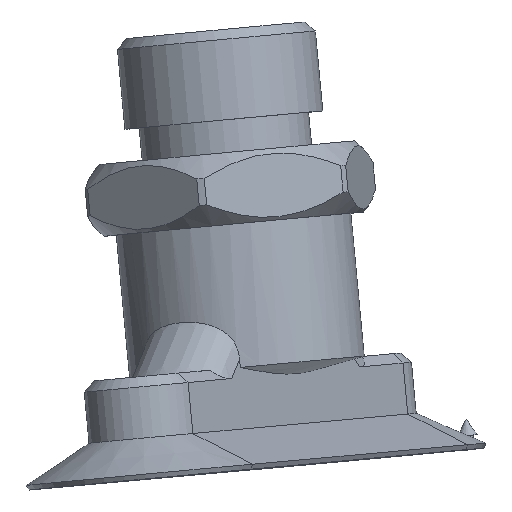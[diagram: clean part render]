
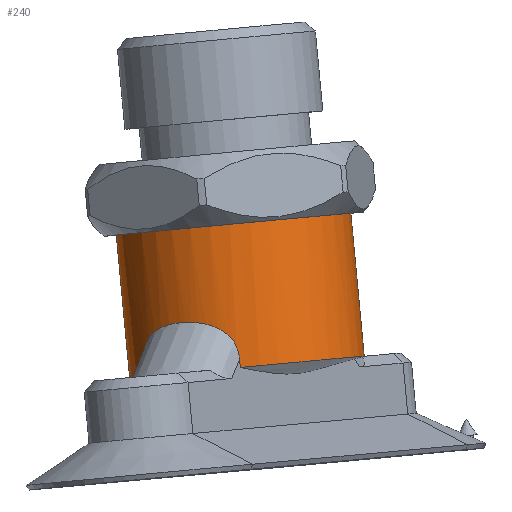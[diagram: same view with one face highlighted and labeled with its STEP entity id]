
A CAD part, top view. The second image highlights one B-rep face of the part: STEP entity #240.
In plain terms, the highlighted cylindrical face has radius 5.75 mm (diameter 11.5 mm), a full revolution.
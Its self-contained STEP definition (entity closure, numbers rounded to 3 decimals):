
#240=ADVANCED_FACE('',(#494,#495),#496,.T.);
#494=FACE_OUTER_BOUND('',#806,.T.);
#495=FACE_OUTER_BOUND('',#807,.T.);
#496=CYLINDRICAL_SURFACE('',#808,5.75);
#806=EDGE_LOOP('',(#1228,#1229,#1230,#1231,#1232,#1233,#1234,#1235,#1236,#1237));
#807=EDGE_LOOP('',(#1238));
#808=AXIS2_PLACEMENT_3D('',#1239,#1240,#1241);
#1228=ORIENTED_EDGE('',*,*,#1855,.T.);
#1229=ORIENTED_EDGE('',*,*,#1856,.F.);
#1230=ORIENTED_EDGE('',*,*,#1857,.F.);
#1231=ORIENTED_EDGE('',*,*,#1852,.F.);
#1232=ORIENTED_EDGE('',*,*,#1851,.F.);
#1233=ORIENTED_EDGE('',*,*,#1800,.F.);
#1234=ORIENTED_EDGE('',*,*,#1858,.F.);
#1235=ORIENTED_EDGE('',*,*,#1798,.T.);
#1236=ORIENTED_EDGE('',*,*,#1859,.T.);
#1237=ORIENTED_EDGE('',*,*,#1860,.T.);
#1238=ORIENTED_EDGE('',*,*,#1861,.T.);
#1239=CARTESIAN_POINT('',(0.0,0.0,0.0));
#1240=DIRECTION('',(0.0,1.0,0.0));
#1241=DIRECTION('',(0.0,0.0,-1.0));
#1798=EDGE_CURVE('',#2046,#2044,#2047,.T.);
#1800=EDGE_CURVE('',#2048,#2031,#2050,.T.);
#1851=EDGE_CURVE('',#2031,#2130,#2131,.T.);
#1852=EDGE_CURVE('',#2130,#2132,#2133,.T.);
#1855=EDGE_CURVE('',#2136,#2137,#2138,.F.);
#1856=EDGE_CURVE('',#2139,#2137,#2140,.F.);
#1857=EDGE_CURVE('',#2132,#2139,#2141,.F.);
#1858=EDGE_CURVE('',#2046,#2048,#2142,.F.);
#1859=EDGE_CURVE('',#2044,#2143,#2144,.T.);
#1860=EDGE_CURVE('',#2143,#2136,#2145,.T.);
#1861=EDGE_CURVE('',#2146,#2146,#2147,.T.);
#2031=VERTEX_POINT('',#2375);
#2044=VERTEX_POINT('',#2394);
#2046=VERTEX_POINT('',#2397);
#2047=LINE('',#2398,#2399);
#2048=VERTEX_POINT('',#2400);
#2050=LINE('',#2413,#2414);
#2130=VERTEX_POINT('',#2551);
#2131=B_SPLINE_CURVE_WITH_KNOTS('',3,(#2552,#2553,#2554,#2555,#2556,#2557,#2558,#2559,#2560,#2561,#2562,#2563,#2564,#2565,#2566,#2567,#2568,#2569,#2570),.UNSPECIFIED.,.F.,.F.,(4,1,1,1,1,1,1,1,1,1,1,1,1,1,1,1,4),(0.0,0.039,0.077,0.113,0.149,0.184,0.218,0.25,0.313,0.376,0.501,0.626,0.685,0.751,0.819,0.902,1.0),.UNSPECIFIED.);
#2132=VERTEX_POINT('',#2571);
#2133=B_SPLINE_CURVE_WITH_KNOTS('',3,(#2572,#2573,#2574,#2575,#2576,#2577,#2578,#2579,#2580,#2581,#2582,#2583,#2584,#2585,#2586,#2587,#2588,#2589),.UNSPECIFIED.,.F.,.F.,(4,1,1,1,1,1,1,1,1,1,1,1,1,1,1,4),(0.0,0.051,0.098,0.142,0.181,0.217,0.249,0.315,0.374,0.499,0.642,0.749,0.811,0.874,0.934,1.0),.UNSPECIFIED.);
#2136=VERTEX_POINT('',#2593);
#2137=VERTEX_POINT('',#2594);
#2138=LINE('',#2595,#2596);
#2139=VERTEX_POINT('',#2597);
#2140=CIRCLE('',#2598,5.75);
#2141=LINE('',#2599,#2600);
#2142=CIRCLE('',#2601,5.75);
#2143=VERTEX_POINT('',#2602);
#2144=B_SPLINE_CURVE_WITH_KNOTS('',3,(#2603,#2604,#2605,#2606,#2607,#2608,#2609,#2610,#2611,#2612,#2613,#2614,#2615,#2616,#2617,#2618,#2619),.UNSPECIFIED.,.F.,.F.,(4,1,1,1,1,1,1,1,1,1,1,1,1,1,4),(0.0,0.038,0.076,0.112,0.147,0.182,0.216,0.251,0.371,0.501,0.62,0.751,0.832,0.915,1.0),.UNSPECIFIED.);
#2145=B_SPLINE_CURVE_WITH_KNOTS('',3,(#2620,#2621,#2622,#2623,#2624,#2625,#2626,#2627,#2628,#2629,#2630,#2631,#2632,#2633,#2634),.UNSPECIFIED.,.F.,.F.,(4,1,1,1,1,1,1,1,1,1,1,1,4),(0.0,0.051,0.102,0.151,0.2,0.249,0.38,0.499,0.629,0.749,0.829,0.912,1.0),.UNSPECIFIED.);
#2146=VERTEX_POINT('',#2635);
#2147=CIRCLE('',#2636,5.75);
#2375=CARTESIAN_POINT('',(2.75,5.4,5.05));
#2394=CARTESIAN_POINT('',(2.75,5.4,-5.05));
#2397=CARTESIAN_POINT('',(2.75,5.0,-5.05));
#2398=CARTESIAN_POINT('',(2.75,0.,-5.05));
#2399=VECTOR('',#3136,1.0);
#2400=CARTESIAN_POINT('',(2.75,5.0,5.05));
#2413=CARTESIAN_POINT('',(2.75,0.,5.05));
#2414=VECTOR('',#3137,1.0);
#2551=CARTESIAN_POINT('',(0.,7.45,5.75));
#2552=CARTESIAN_POINT('',(2.75,5.4,5.05));
#2553=CARTESIAN_POINT('',(2.749,5.452,5.05));
#2554=CARTESIAN_POINT('',(2.748,5.553,5.051));
#2555=CARTESIAN_POINT('',(2.734,5.703,5.058));
#2556=CARTESIAN_POINT('',(2.712,5.846,5.07));
#2557=CARTESIAN_POINT('',(2.681,5.983,5.087));
#2558=CARTESIAN_POINT('',(2.641,6.113,5.108));
#2559=CARTESIAN_POINT('',(2.594,6.236,5.132));
#2560=CARTESIAN_POINT('',(2.522,6.387,5.168));
#2561=CARTESIAN_POINT('',(2.413,6.559,5.22));
#2562=CARTESIAN_POINT('',(2.205,6.801,5.313));
#2563=CARTESIAN_POINT('',(1.885,7.04,5.438));
#2564=CARTESIAN_POINT('',(1.525,7.202,5.548));
#2565=CARTESIAN_POINT('',(1.218,7.299,5.621));
#2566=CARTESIAN_POINT('',(0.974,7.358,5.669));
#2567=CARTESIAN_POINT('',(0.695,7.406,5.71));
#2568=CARTESIAN_POINT('',(0.369,7.442,5.743));
#2569=CARTESIAN_POINT('',(0.13,7.447,5.747));
#2570=CARTESIAN_POINT('',(0.,7.45,5.75));
#2571=CARTESIAN_POINT('',(-2.75,5.4,5.05));
#2572=CARTESIAN_POINT('',(0.,7.45,5.75));
#2573=CARTESIAN_POINT('',(-0.067,7.449,5.749));
#2574=CARTESIAN_POINT('',(-0.197,7.448,5.748));
#2575=CARTESIAN_POINT('',(-0.384,7.437,5.738));
#2576=CARTESIAN_POINT('',(-0.555,7.421,5.724));
#2577=CARTESIAN_POINT('',(-0.709,7.402,5.707));
#2578=CARTESIAN_POINT('',(-0.847,7.38,5.688));
#2579=CARTESIAN_POINT('',(-1.019,7.347,5.66));
#2580=CARTESIAN_POINT('',(-1.218,7.299,5.621));
#2581=CARTESIAN_POINT('',(-1.525,7.202,5.548));
#2582=CARTESIAN_POINT('',(-1.906,7.031,5.432));
#2583=CARTESIAN_POINT('',(-2.285,6.738,5.281));
#2584=CARTESIAN_POINT('',(-2.518,6.41,5.17));
#2585=CARTESIAN_POINT('',(-2.639,6.133,5.109));
#2586=CARTESIAN_POINT('',(-2.704,5.899,5.075));
#2587=CARTESIAN_POINT('',(-2.743,5.653,5.053));
#2588=CARTESIAN_POINT('',(-2.748,5.487,5.051));
#2589=CARTESIAN_POINT('',(-2.75,5.4,5.05));
#2593=CARTESIAN_POINT('',(-2.75,5.4,-5.05));
#2594=CARTESIAN_POINT('',(-2.75,5.0,-5.05));
#2595=CARTESIAN_POINT('',(-2.75,0.,-5.05));
#2596=VECTOR('',#3200,1.0);
#2597=CARTESIAN_POINT('',(-2.75,5.0,5.05));
#2598=AXIS2_PLACEMENT_3D('',#3201,#3202,#3203);
#2599=CARTESIAN_POINT('',(-2.75,0.,5.05));
#2600=VECTOR('',#3204,1.0);
#2601=AXIS2_PLACEMENT_3D('',#3205,#3206,#3207);
#2602=CARTESIAN_POINT('',(0.,7.45,-5.75));
#2603=CARTESIAN_POINT('',(2.75,5.4,-5.05));
#2604=CARTESIAN_POINT('',(2.749,5.451,-5.05));
#2605=CARTESIAN_POINT('',(2.748,5.551,-5.051));
#2606=CARTESIAN_POINT('',(2.734,5.698,-5.058));
#2607=CARTESIAN_POINT('',(2.713,5.84,-5.07));
#2608=CARTESIAN_POINT('',(2.683,5.976,-5.086));
#2609=CARTESIAN_POINT('',(2.644,6.107,-5.106));
#2610=CARTESIAN_POINT('',(2.595,6.233,-5.131));
#2611=CARTESIAN_POINT('',(2.49,6.453,-5.184));
#2612=CARTESIAN_POINT('',(2.273,6.75,-5.286));
#2613=CARTESIAN_POINT('',(1.896,7.033,-5.434));
#2614=CARTESIAN_POINT('',(1.455,7.235,-5.57));
#2615=CARTESIAN_POINT('',(1.04,7.348,-5.66));
#2616=CARTESIAN_POINT('',(0.66,7.411,-5.715));
#2617=CARTESIAN_POINT('',(0.334,7.444,-5.744));
#2618=CARTESIAN_POINT('',(0.112,7.448,-5.748));
#2619=CARTESIAN_POINT('',(0.,7.45,-5.75));
#2620=CARTESIAN_POINT('',(0.0,7.45,-5.75));
#2621=CARTESIAN_POINT('',(-0.068,7.449,-5.749));
#2622=CARTESIAN_POINT('',(-0.202,7.448,-5.748));
#2623=CARTESIAN_POINT('',(-0.401,7.436,-5.737));
#2624=CARTESIAN_POINT('',(-0.597,7.417,-5.72));
#2625=CARTESIAN_POINT('',(-0.788,7.39,-5.697));
#2626=CARTESIAN_POINT('',(-1.081,7.337,-5.651));
#2627=CARTESIAN_POINT('',(-1.455,7.235,-5.57));
#2628=CARTESIAN_POINT('',(-1.896,7.033,-5.434));
#2629=CARTESIAN_POINT('',(-2.272,6.751,-5.286));
#2630=CARTESIAN_POINT('',(-2.525,6.407,-5.167));
#2631=CARTESIAN_POINT('',(-2.665,6.066,-5.096));
#2632=CARTESIAN_POINT('',(-2.738,5.742,-5.056));
#2633=CARTESIAN_POINT('',(-2.746,5.517,-5.052));
#2634=CARTESIAN_POINT('',(-2.75,5.4,-5.05));
#2635=CARTESIAN_POINT('',(0.0,12.0,-5.75));
#2636=AXIS2_PLACEMENT_3D('',#3208,#3209,#3210);
#3136=DIRECTION('',(0.0,1.0,0.0));
#3137=DIRECTION('',(0.0,1.0,0.0));
#3200=DIRECTION('',(0.0,1.0,0.0));
#3201=CARTESIAN_POINT('',(0.0,5.0,0.0));
#3202=DIRECTION('',(0.0,1.0,0.0));
#3203=DIRECTION('',(0.0,0.0,1.0));
#3204=DIRECTION('',(0.0,1.0,0.0));
#3205=CARTESIAN_POINT('',(0.0,5.0,0.0));
#3206=DIRECTION('',(0.0,1.0,0.0));
#3207=DIRECTION('',(0.0,0.0,1.0));
#3208=CARTESIAN_POINT('',(0.0,12.0,0.0));
#3209=DIRECTION('',(0.0,-1.0,0.0));
#3210=DIRECTION('',(0.0,0.0,-1.0));
